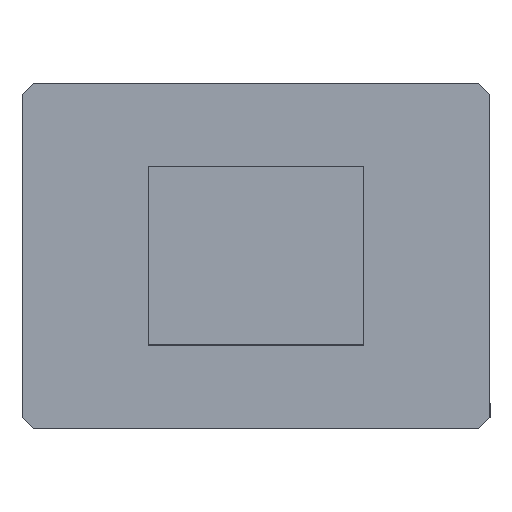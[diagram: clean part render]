
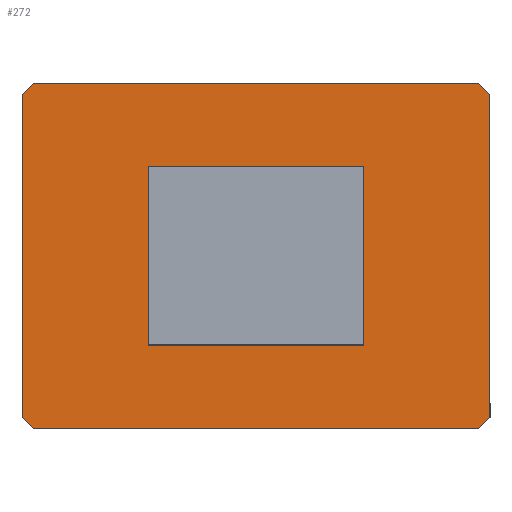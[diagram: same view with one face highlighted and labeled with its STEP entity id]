
A CAD part, top view. The second image highlights one B-rep face of the part: STEP entity #272.
In plain terms, the highlighted planar face has unit normal (0, 0, 1) as drawn and (0, 0, -1) by its records, which use the part's own axes.
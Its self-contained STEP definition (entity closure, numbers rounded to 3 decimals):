
#151=CARTESIAN_POINT('',(-20.,15.5,3.9));
#152=VERTEX_POINT('',#151);
#159=CARTESIAN_POINT('',(-21.,14.5,3.9));
#160=VERTEX_POINT('',#159);
#161=CARTESIAN_POINT('',(-20.,15.5,3.9));
#162=DIRECTION('',(-0.707,-0.707,0.0));
#163=VECTOR('',#162,1.414);
#164=LINE('',#161,#163);
#165=EDGE_CURVE('',#152,#160,#164,.T.);
#176=CARTESIAN_POINT('',(0.,0.,3.9));
#177=DIRECTION('',(0.0,0.0,1.0));
#178=DIRECTION('',(1.0,0.0,0.0));
#179=AXIS2_PLACEMENT_3D('',#176,#177,#178);
#180=PLANE('',#179);
#181=ORIENTED_EDGE('',*,*,#165,.F.);
#182=CARTESIAN_POINT('',(20.,15.5,3.9));
#183=VERTEX_POINT('',#182);
#184=CARTESIAN_POINT('',(20.,15.5,3.9));
#185=DIRECTION('',(-1.0,0.0,0.0));
#186=VECTOR('',#185,40.);
#187=LINE('',#184,#186);
#188=EDGE_CURVE('',#183,#152,#187,.T.);
#189=ORIENTED_EDGE('',*,*,#188,.F.);
#190=CARTESIAN_POINT('',(21.,14.5,3.9));
#191=VERTEX_POINT('',#190);
#192=CARTESIAN_POINT('',(21.,14.5,3.9));
#193=DIRECTION('',(-0.707,0.707,0.0));
#194=VECTOR('',#193,1.414);
#195=LINE('',#192,#194);
#196=EDGE_CURVE('',#191,#183,#195,.T.);
#197=ORIENTED_EDGE('',*,*,#196,.F.);
#198=CARTESIAN_POINT('',(21.,-14.5,3.9));
#199=VERTEX_POINT('',#198);
#200=CARTESIAN_POINT('',(21.,-14.5,3.9));
#201=DIRECTION('',(0.0,1.0,0.0));
#202=VECTOR('',#201,29.);
#203=LINE('',#200,#202);
#204=EDGE_CURVE('',#199,#191,#203,.T.);
#205=ORIENTED_EDGE('',*,*,#204,.F.);
#206=CARTESIAN_POINT('',(20.,-15.5,3.9));
#207=VERTEX_POINT('',#206);
#208=CARTESIAN_POINT('',(20.,-15.5,3.9));
#209=DIRECTION('',(0.707,0.707,0.0));
#210=VECTOR('',#209,1.414);
#211=LINE('',#208,#210);
#212=EDGE_CURVE('',#207,#199,#211,.T.);
#213=ORIENTED_EDGE('',*,*,#212,.F.);
#214=CARTESIAN_POINT('',(-20.,-15.5,3.9));
#215=VERTEX_POINT('',#214);
#216=CARTESIAN_POINT('',(-20.,-15.5,3.9));
#217=DIRECTION('',(1.0,0.0,0.0));
#218=VECTOR('',#217,40.);
#219=LINE('',#216,#218);
#220=EDGE_CURVE('',#215,#207,#219,.T.);
#221=ORIENTED_EDGE('',*,*,#220,.F.);
#222=CARTESIAN_POINT('',(-21.,-14.5,3.9));
#223=VERTEX_POINT('',#222);
#224=CARTESIAN_POINT('',(-21.,-14.5,3.9));
#225=DIRECTION('',(0.707,-0.707,0.0));
#226=VECTOR('',#225,1.414);
#227=LINE('',#224,#226);
#228=EDGE_CURVE('',#223,#215,#227,.T.);
#229=ORIENTED_EDGE('',*,*,#228,.F.);
#230=CARTESIAN_POINT('',(-21.,14.5,3.9));
#231=DIRECTION('',(0.0,-1.0,0.0));
#232=VECTOR('',#231,29.0);
#233=LINE('',#230,#232);
#234=EDGE_CURVE('',#160,#223,#233,.T.);
#235=ORIENTED_EDGE('',*,*,#234,.F.);
#236=EDGE_LOOP('',(#181,#189,#197,#205,#213,#221,#229,#235));
#237=FACE_OUTER_BOUND('',#236,.T.);
#238=CARTESIAN_POINT('',(-9.65,8.,3.9));
#239=VERTEX_POINT('',#238);
#240=CARTESIAN_POINT('',(9.65,8.,3.9));
#241=VERTEX_POINT('',#240);
#242=CARTESIAN_POINT('',(-9.65,8.,3.9));
#243=DIRECTION('',(1.0,0.0,0.0));
#244=VECTOR('',#243,19.3);
#245=LINE('',#242,#244);
#246=EDGE_CURVE('',#239,#241,#245,.T.);
#247=ORIENTED_EDGE('',*,*,#246,.F.);
#248=CARTESIAN_POINT('',(-9.65,-8.,3.9));
#249=VERTEX_POINT('',#248);
#250=CARTESIAN_POINT('',(-9.65,-8.,3.9));
#251=DIRECTION('',(0.0,1.0,0.0));
#252=VECTOR('',#251,16.0);
#253=LINE('',#250,#252);
#254=EDGE_CURVE('',#249,#239,#253,.T.);
#255=ORIENTED_EDGE('',*,*,#254,.F.);
#256=CARTESIAN_POINT('',(9.65,-8.,3.9));
#257=VERTEX_POINT('',#256);
#258=CARTESIAN_POINT('',(9.65,-8.,3.9));
#259=DIRECTION('',(-1.0,0.0,0.0));
#260=VECTOR('',#259,19.3);
#261=LINE('',#258,#260);
#262=EDGE_CURVE('',#257,#249,#261,.T.);
#263=ORIENTED_EDGE('',*,*,#262,.F.);
#264=CARTESIAN_POINT('',(9.65,8.,3.9));
#265=DIRECTION('',(0.0,-1.0,0.0));
#266=VECTOR('',#265,16.0);
#267=LINE('',#264,#266);
#268=EDGE_CURVE('',#241,#257,#267,.T.);
#269=ORIENTED_EDGE('',*,*,#268,.F.);
#270=EDGE_LOOP('',(#247,#255,#263,#269));
#271=FACE_BOUND('',#270,.T.);
#272=ADVANCED_FACE('',(#237,#271),#180,.F.);
